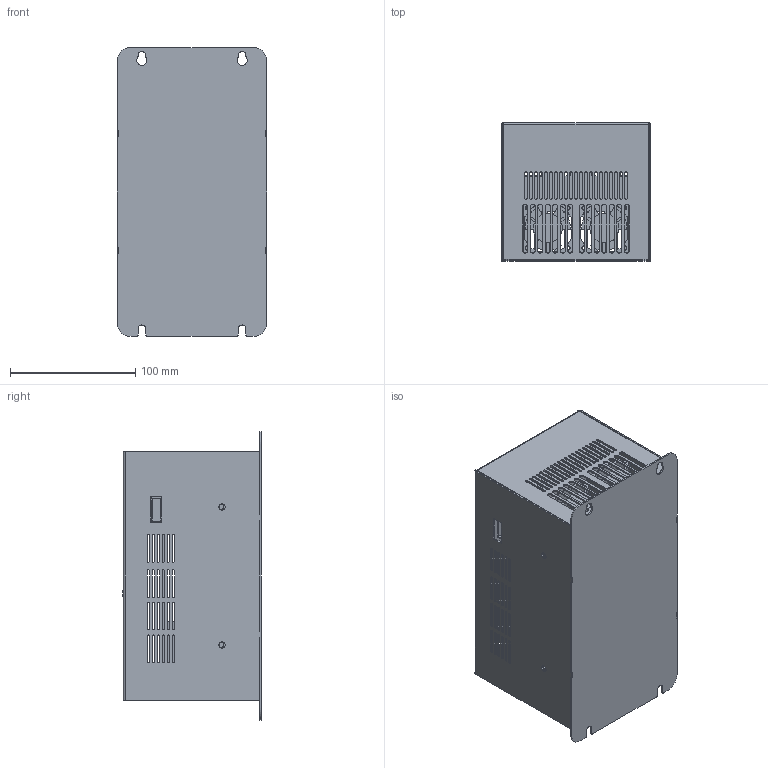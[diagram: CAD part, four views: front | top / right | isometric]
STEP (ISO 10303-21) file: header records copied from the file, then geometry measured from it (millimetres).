
FILE_DESCRIPTION(('STEP AP203'), '1');
FILE_NAME('Òîðìîçíîé ìîäóëü _ FCI-BU-50', '', ('UNSPECIFIED'), ('UNSPECIFIED'), 'C3D Converter', 'C3D Toolkit', '');
FILE_SCHEMA(('CONFIG_CONTROL_DESIGN'));
Length unit declared in the file: millimetre
Products named in the file (1): FCI-BU-50
Bounding box: 119 x 110.3 x 230 mm (x, y, z)
Volume: 653854 mm3; surface area: 510723.2 mm2
Topology: 36 solids, 36 shells, 1665 faces, 4438 edges, 2885 vertices
Faces by surface type: plane 1130, cylinder 433, bspline 54, torus 32, sphere 12, cone 4
Full cylindrical faces by diameter (mm): 3 x14, 3.5 x8, 3.8 x2, 4 x26, 5 x7, 6 x11, 6.4 x2, 7 x2, 9 x2, 13 x1, 23 x2
Entity records: 67431 total; most frequent: CARTESIAN_POINT 11909, ORIENTED_EDGE 8662, DIRECTION 8328, EDGE_CURVE 4331, LINE 3166, VECTOR 3166, VERTEX_POINT 2885, AXIS2_PLACEMENT_3D 2581
